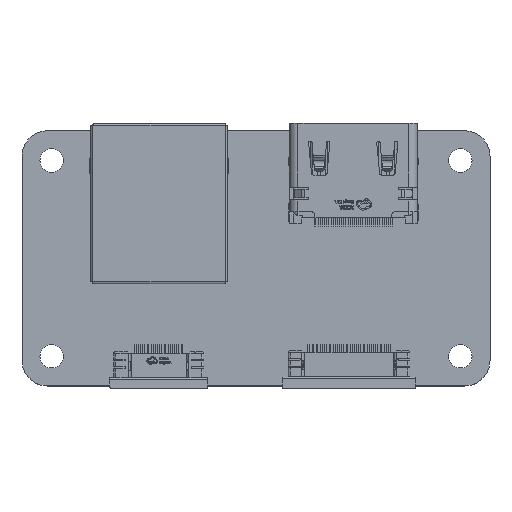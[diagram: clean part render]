
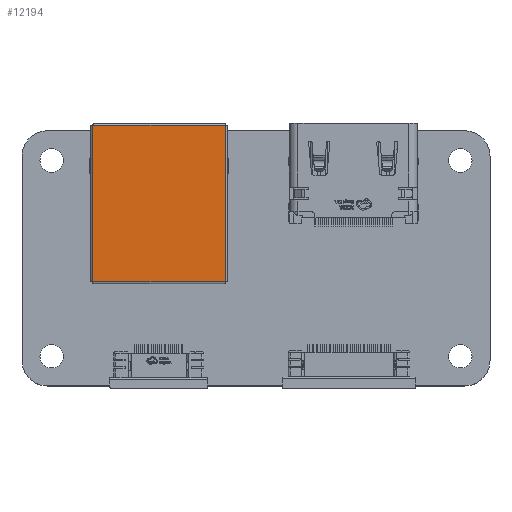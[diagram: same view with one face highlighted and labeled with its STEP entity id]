
A CAD part, top view. The second image highlights one B-rep face of the part: STEP entity #12194.
In plain terms, the highlighted planar face has unit normal (0, 0, 1).
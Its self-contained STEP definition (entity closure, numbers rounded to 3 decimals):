
#11215 = VERTEX_POINT('',#11216);
#11216 = CARTESIAN_POINT('',(7.79,7.698,13.5));
#11225 = EDGE_CURVE('',#11226,#11215,#11228,.T.);
#11226 = VERTEX_POINT('',#11227);
#11227 = CARTESIAN_POINT('',(7.79,-10.682,13.5));
#11228 = LINE('',#11229,#11230);
#11229 = CARTESIAN_POINT('',(7.79,-10.682,13.5));
#11230 = VECTOR('',#11231,1.);
#11231 = DIRECTION('',(0.,1.,0.));
#11319 = VERTEX_POINT('',#11320);
#11320 = CARTESIAN_POINT('',(-7.79,-10.682,13.5));
#11329 = EDGE_CURVE('',#11330,#11319,#11332,.T.);
#11330 = VERTEX_POINT('',#11331);
#11331 = CARTESIAN_POINT('',(-7.79,7.698,13.5));
#11332 = LINE('',#11333,#11334);
#11333 = CARTESIAN_POINT('',(-7.79,7.698,13.5));
#11334 = VECTOR('',#11335,1.);
#11335 = DIRECTION('',(0.,-1.,0.));
#12194 = ADVANCED_FACE('',(#12195),#12211,.T.);
#12195 = FACE_BOUND('',#12196,.T.);
#12196 = EDGE_LOOP('',(#12197,#12198,#12204,#12205));
#12197 = ORIENTED_EDGE('',*,*,#11225,.T.);
#12198 = ORIENTED_EDGE('',*,*,#12199,.T.);
#12199 = EDGE_CURVE('',#11215,#11330,#12200,.T.);
#12200 = LINE('',#12201,#12202);
#12201 = CARTESIAN_POINT('',(7.79,7.698,13.5));
#12202 = VECTOR('',#12203,1.);
#12203 = DIRECTION('',(-1.,-0.,-0.));
#12204 = ORIENTED_EDGE('',*,*,#11329,.T.);
#12205 = ORIENTED_EDGE('',*,*,#12206,.T.);
#12206 = EDGE_CURVE('',#11319,#11226,#12207,.T.);
#12207 = LINE('',#12208,#12209);
#12208 = CARTESIAN_POINT('',(-7.79,-10.682,13.5));
#12209 = VECTOR('',#12210,1.);
#12210 = DIRECTION('',(1.,0.,0.));
#12211 = PLANE('',#12212);
#12212 = AXIS2_PLACEMENT_3D('',#12213,#12214,#12215);
#12213 = CARTESIAN_POINT('',(0.,-1.492,13.5));
#12214 = DIRECTION('',(0.,0.,1.));
#12215 = DIRECTION('',(1.,0.,0.));
